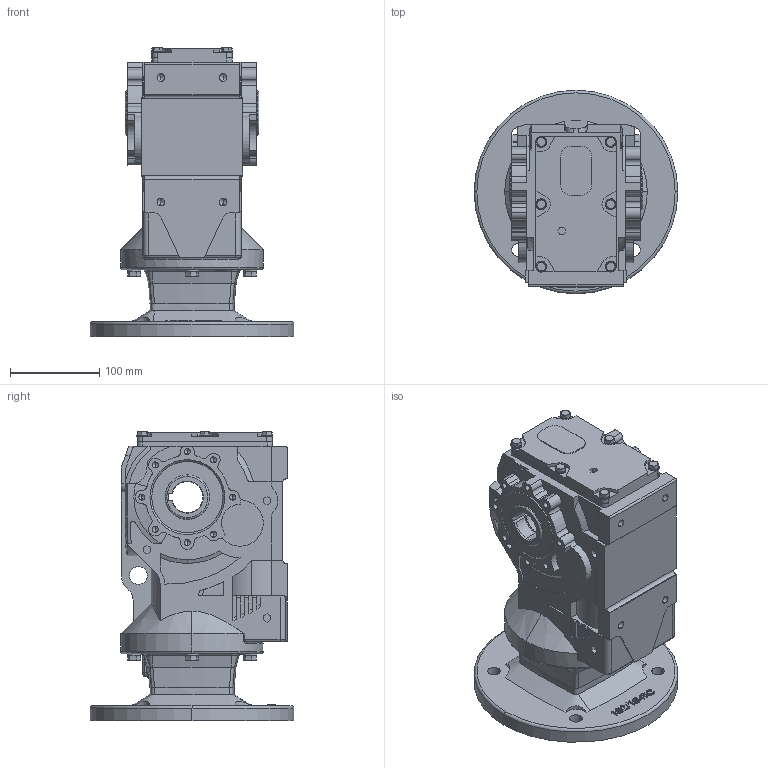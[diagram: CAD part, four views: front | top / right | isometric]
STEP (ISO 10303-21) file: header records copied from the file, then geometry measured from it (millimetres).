
FILE_DESCRIPTION (( 'STEP AP203' ), '1' );
FILE_NAME ('KAN47-182-4TC.STEP', '2022-04-11T07:12:27', ( 'user1' ), ( '' ), 'SwSTEP 2.0', 'SolidWorks 2012', '' );
FILE_SCHEMA (( 'CONFIG_CONTROL_DESIGN' ));
Products named in the file (1): KAN47-182-4TC
Bounding box: 228.6 x 228.6 x 324.88 mm (x, y, z)
Volume: 5688997.1 mm3; surface area: 353330.2 mm2
Topology: 1 solids, 1 shells, 1162 faces, 3089 edges, 1970 vertices
Faces by surface type: plane 520, cylinder 372, bspline 121, cone 120, torus 25, sphere 4
Entity records: 45700 total; most frequent: CARTESIAN_POINT 17535, ORIENTED_EDGE 6094, DIRECTION 5493, EDGE_CURVE 3047, VERTEX_POINT 1970, AXIS2_PLACEMENT_3D 1908, VECTOR 1677, LINE 1677
